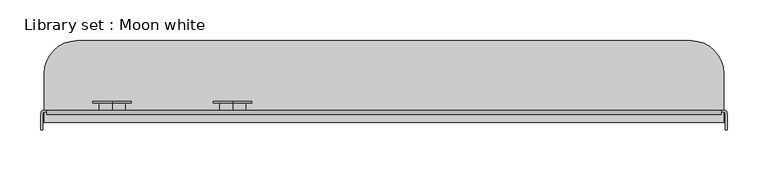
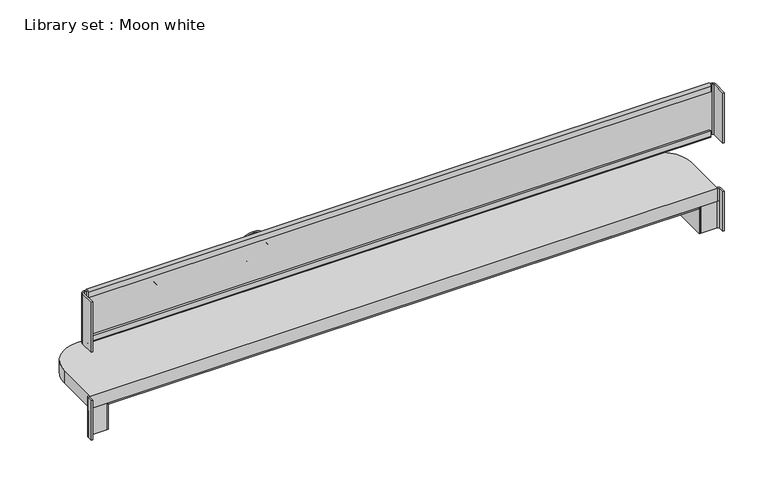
"""IFC4 building model written with IfcOpenShell, lengths in millimetres: proxy geometry, Library set : Moon white."""

from ifc_helpers import new_model, si_unit, point, frame, frame_2d, origin, place, context, project, spatial, polyline, circle_curve, trimmed, segment, composite_curve, outline, extrude, source, transform, mapped, element, save
from ifc_brep_helpers import plane_surface, cylinder_surface, revolved_surface, advanced_brep


def library_set_moon_white_0ce7756b(model_context):
    return source(origin(), model_context, "Body", "SolidModel", [
        extrude(outline(composite_curve([segment(trimmed(circle_curve(frame_2d((-375.0, 65.0000014)), 40.0), [point((-415.0, 65.0000014))], [point((-375.0, 105.0000014))], False, "CARTESIAN"), True, "CONTINUOUS"), segment(polyline([(-375.0, 105.0000014), (375.0, 105.0000014)]), True, "CONTINUOUS"), segment(trimmed(circle_curve(frame_2d((375.0, 65.0000014)), 40.0), [point((375.0, 105.0000014))], [point((415.0, 65.0000014))], False, "CARTESIAN"), True, "CONTINUOUS"), segment(polyline([(415.0, 65.0000014), (415.0, 5.0000014), (-415.0, 5.0000014), (-415.0, 65.0000014)]), True, "CONTINUOUS")], self_intersect=False)), frame((0.0, 0.0, 1440.0), z_axis=(0.0, 0.0, 1.0), x_axis=(1.0, 0.0, 0.0)), (0.0, 0.0, 1.0), 18.0),
        extrude(outline(composite_curve([segment(trimmed(circle_curve(frame_2d((44.0000014, 1408.0)), 5.0), [point((49.0000014, 1408.0))], [point((44.0000014, 1403.0))], False, "CARTESIAN"), True, "CONTINUOUS"), segment(polyline([(44.0000014, 1403.0), (5.0000014, 1403.0), (5.0000014, 1440.0), (49.0000014, 1440.0), (49.0000014, 1408.0)]), True, "CONTINUOUS")], self_intersect=False)), frame((391.0, 0.0, 0.0), z_axis=(1.0, 0.0, 0.0), x_axis=(0.0, 1.0, 0.0)), (0.0, 0.0, 1.0), 2.0),
        advanced_brep(
        [(-415.0, 7.0000014, 1440.0), (-415.0, 5.0000014, 1440.0), (-393.0, 5.0000014, 1440.0), (-393.0, 7.0000014, 1440.0), (-419.0, 3.0000014, 1403.0), (-415.0, 7.0000014, 1403.0), (-393.0, 7.0000014, 1403.0), (-393.0, 5.0000014, 1403.0), (-415.0, 5.0000014, 1403.0), (-417.0, 3.0000014, 1403.0), (-417.0, -4.0, 1403.0), (-419.0, -4.0, 1403.0), (-419.0, 3.0000014, 1440.0), (-417.0, 3.0000014, 1440.0), (-417.0, 3.0000014, 1458.0), (-417.0, -4.0, 1458.0), (-419.0, -4.0, 1458.0), (-419.0, 3.0000014, 1458.0), (-415.0, 5.0000014, 1458.0), (-415.0, 7.0000014, 1458.0)],
        [
            (0, 1),
            (1, 2),
            (2, 3),
            (3, 0),
            (4, 5, circle_curve(frame((-415.0, 3.0000014, 1403.0), z_axis=(0.0, 0.0, -1.0), x_axis=(1.0, 0.0, 0.0)), 4.0)),
            (5, 6),
            (6, 7),
            (7, 8),
            (8, 9, circle_curve(frame((-415.0, 3.0000014, 1403.0), z_axis=(0.0, 0.0, 1.0), x_axis=(1.0, 0.0, 0.0)), 2.0)),
            (9, 10),
            (10, 11),
            (11, 4),
            (4, 12),
            (12, 0, circle_curve(frame((-415.0, 3.0000014, 1440.0), z_axis=(0.0, 0.0, -1.0), x_axis=(1.0, 0.0, 0.0)), 4.0)),
            (0, 5),
            (3, 6),
            (2, 7),
            (1, 8),
            (1, 13, circle_curve(frame((-415.0, 3.0000014, 1440.0), z_axis=(0.0, 0.0, 1.0), x_axis=(1.0, 0.0, 0.0)), 2.0)),
            (13, 9),
            (13, 14),
            (14, 15),
            (15, 10),
            (15, 16),
            (16, 11),
            (16, 17),
            (17, 12),
            (14, 18, circle_curve(frame((-415.0, 3.0000014, 1458.0), z_axis=(0.0, 0.0, -1.0), x_axis=(1.0, 0.0, 0.0)), 2.0)),
            (18, 19),
            (19, 17, circle_curve(frame((-415.0, 3.0000014, 1458.0), z_axis=(0.0, 0.0, 1.0), x_axis=(1.0, 0.0, 0.0)), 4.0)),
            (19, 0),
            (1, 18),
        ],
        [
            plane_surface(frame((-411.0, 3.0000014, 1440.0), z_axis=(0.0, 0.0, 1.0), x_axis=(0.0, -1.0, 0.0))),
            plane_surface(frame((-411.0, 3.0000014, 1403.0), z_axis=(0.0, 0.0, -1.0), x_axis=(0.0, 1.0, 0.0))),
            cylinder_surface(frame((-415.0, 3.0000014, 1403.0), z_axis=(0.0, 0.0, 1.0), x_axis=(1.0, 0.0, 0.0)), 4.0),
            plane_surface(frame((-415.0, 7.0000014, 1440.0), z_axis=(0.0, 1.0, 0.0), x_axis=(0.0, 0.0, -1.0))),
            plane_surface(frame((-393.0, 7.0000014, 1440.0), z_axis=(1.0, 0.0, 0.0), x_axis=(0.0, 0.0, -1.0))),
            plane_surface(frame((-393.0, 5.0000014, 1440.0), z_axis=(0.0, -1.0, 0.0), x_axis=(0.0, 0.0, -1.0))),
            revolved_surface(polyline([(-413.0, 3.0000014, 1403.0), (-413.0, 3.0000014, 1440.0)]), (-415.0, 3.0000014, 1403.0), (0.0, 0.0, -1.0)),
            plane_surface(frame((-417.0, 3.0000014, 1440.0), z_axis=(1.0, 0.0, 0.0), x_axis=(0.0, 0.0, -1.0))),
            plane_surface(frame((-417.0, -4.0, 1440.0), z_axis=(0.0, -1.0, 0.0), x_axis=(0.0, 0.0, -1.0))),
            plane_surface(frame((-419.0, -4.0, 1440.0), z_axis=(-1.0, 0.0, 0.0), x_axis=(0.0, 0.0, -1.0))),
            plane_surface(frame((-411.0, 3.0000014, 1458.0), z_axis=(0.0, 0.0, 1.0), x_axis=(0.0, -1.0, 0.0))),
            cylinder_surface(frame((-415.0, 3.0000014, 1440.0), z_axis=(0.0, 0.0, 1.0), x_axis=(1.0, 0.0, 0.0)), 4.0),
            revolved_surface(polyline([(-413.0, 3.0000014, 1440.0), (-413.0, 3.0000014, 1458.0)]), (-415.0, 3.0000014, 1440.0), (0.0, 0.0, -1.0)),
            plane_surface(frame((-415.0, 7.0000014, 1458.0), z_axis=(1.0, 0.0, 0.0), x_axis=(0.0, 0.0, -1.0))),
        ],
        [
            (0, [[1, 2, 3, 4]]),
            (1, [[5, 6, 7, 8, 9, 10, 11, 12]]),
            (2, [[13, 14, 15, -5]]),
            (3, [[16, -6, -15, -4]]),
            (4, [[17, -7, -16, -3]]),
            (5, [[18, -8, -17, -2]]),
            (6, [[-18, 19, 20, -9]]),
            (7, [[-20, 21, 22, 23, -10]]),
            (8, [[24, 25, -11, -23]]),
            (9, [[26, 27, -13, -12, -25]]),
            (10, [[-26, -24, -22, 28, 29, 30]]),
            (11, [[31, -14, -27, -30]]),
            (12, [[-21, -19, 32, -28]]),
            (13, [[-32, -1, -31, -29]]),
        ],
    ),
        advanced_brep(
        [(415.0, 5.0000014, 1440.0), (415.0, 7.0000014, 1440.0), (392.6469872, 7.0000014, 1440.0), (392.6469872, 5.0000014, 1440.0), (419.0, 3.0000014, 1403.0), (419.0, -4.0, 1403.0), (417.0, -4.0, 1403.0), (417.0, 3.0000014, 1403.0), (415.0, 5.0000014, 1403.0), (392.6469872, 5.0000014, 1403.0), (392.6469872, 7.0000014, 1403.0), (415.0, 7.0000014, 1403.0), (419.0, 3.0000014, 1440.0), (419.0, 3.0000014, 1458.0), (419.0, -4.0, 1458.0), (417.0, -4.0, 1458.0), (417.0, 3.0000014, 1458.0), (417.0, 3.0000014, 1440.0), (415.0, 7.0000014, 1458.0), (415.0, 5.0000014, 1458.0)],
        [
            (0, 1),
            (1, 2),
            (2, 3),
            (3, 0),
            (4, 5),
            (5, 6),
            (6, 7),
            (7, 8, circle_curve(frame((415.0, 3.0000014, 1403.0), z_axis=(0.0, 0.0, 1.0), x_axis=(1.0, 0.0, 0.0)), 2.0)),
            (8, 9),
            (9, 10),
            (10, 11),
            (11, 4, circle_curve(frame((415.0, 3.0000014, 1403.0), z_axis=(0.0, 0.0, -1.0), x_axis=(1.0, 0.0, 0.0)), 4.0)),
            (4, 12),
            (12, 13),
            (13, 14),
            (14, 5),
            (14, 15),
            (15, 6),
            (15, 16),
            (16, 17),
            (17, 7),
            (17, 0, circle_curve(frame((415.0, 3.0000014, 1440.0), z_axis=(0.0, 0.0, 1.0), x_axis=(1.0, 0.0, 0.0)), 2.0)),
            (0, 8),
            (3, 9),
            (2, 10),
            (1, 11),
            (1, 12, circle_curve(frame((415.0, 3.0000014, 1440.0), z_axis=(0.0, 0.0, -1.0), x_axis=(1.0, 0.0, 0.0)), 4.0)),
            (13, 18, circle_curve(frame((415.0, 3.0000014, 1458.0), z_axis=(0.0, 0.0, 1.0), x_axis=(1.0, 0.0, 0.0)), 4.0)),
            (18, 19),
            (19, 16, circle_curve(frame((415.0, 3.0000014, 1458.0), z_axis=(0.0, 0.0, -1.0), x_axis=(1.0, 0.0, 0.0)), 2.0)),
            (19, 0),
            (1, 18),
        ],
        [
            plane_surface(frame((-411.0, 3.0000014, 1440.0), z_axis=(0.0, 0.0, 1.0), x_axis=(0.0, -1.0, 0.0))),
            plane_surface(frame((-411.0, 3.0000014, 1403.0), z_axis=(0.0, 0.0, -1.0), x_axis=(0.0, 1.0, 0.0))),
            plane_surface(frame((419.0, 3.0000014, 1440.0), z_axis=(1.0, 0.0, 0.0), x_axis=(0.0, 0.0, -1.0))),
            plane_surface(frame((419.0, -4.0, 1440.0), z_axis=(0.0, -1.0, 0.0), x_axis=(0.0, 0.0, -1.0))),
            plane_surface(frame((417.0, -4.0, 1440.0), z_axis=(-1.0, 0.0, 0.0), x_axis=(0.0, 0.0, -1.0))),
            revolved_surface(polyline([(417.0, 3.0000014, 1403.0), (417.0, 3.0000014, 1440.0)]), (415.0, 3.0000014, 340.0), (0.0, 0.0, -1.0)),
            plane_surface(frame((415.0, 5.0000014, 1440.0), z_axis=(0.0, -1.0, 0.0), x_axis=(0.0, 0.0, -1.0))),
            plane_surface(frame((392.6469872, 5.0000014, 1440.0), z_axis=(-1.0, 0.0, 0.0), x_axis=(0.0, 0.0, -1.0))),
            plane_surface(frame((392.6469872, 7.0000014, 1440.0), z_axis=(0.0, 1.0, 0.0), x_axis=(0.0, 0.0, -1.0))),
            cylinder_surface(frame((415.0, 3.0000014, 340.0), z_axis=(0.0, 0.0, 1.0), x_axis=(1.0, 0.0, 0.0)), 4.0),
            plane_surface(frame((-411.0, 3.0000014, 1458.0), z_axis=(0.0, 0.0, 1.0), x_axis=(0.0, -1.0, 0.0))),
            revolved_surface(polyline([(417.0, 3.0000014, 1440.0), (417.0, 3.0000014, 1458.0)]), (415.0, 3.0000014, 355.0), (0.0, 0.0, -1.0)),
            cylinder_surface(frame((415.0, 3.0000014, 355.0), z_axis=(0.0, 0.0, 1.0), x_axis=(1.0, 0.0, 0.0)), 4.0),
            plane_surface(frame((415.0, 5.0000014, 1458.0), z_axis=(-1.0, 0.0, 0.0), x_axis=(0.0, 0.0, -1.0))),
        ],
        [
            (0, [[1, 2, 3, 4]]),
            (1, [[5, 6, 7, 8, 9, 10, 11, 12]]),
            (2, [[13, 14, 15, 16, -5]]),
            (3, [[17, 18, -6, -16]]),
            (4, [[19, 20, 21, -7, -18]]),
            (5, [[-21, 22, 23, -8]]),
            (6, [[24, -9, -23, -4]]),
            (7, [[25, -10, -24, -3]]),
            (8, [[26, -11, -25, -2]]),
            (9, [[-26, 27, -13, -12]]),
            (10, [[28, 29, 30, -19, -17, -15]]),
            (11, [[31, -22, -20, -30]]),
            (12, [[-14, -27, 32, -28]]),
            (13, [[-32, -1, -31, -29]]),
        ],
    ),
        advanced_brep(
        [(-185.0, 29.0, 1591.7406009), (-185.0, 31.0, 1591.7406009), (-185.0, 31.0, 1544.7406009), (-185.0, 29.0, 1544.7406009), (-185.0, 29.0, 1584.2406009), (-185.0, 29.0, 1552.2406009), (-185.0, 31.0, 1568.2406009), (-185.0, 19.9994783, 1584.2406009), (-185.0, 19.9994783, 1552.2406009), (-185.0, 19.9994783, 1568.2406009)],
        [
            (0, 1),
            (1, 2, circle_curve(frame((-185.0, 31.0, 1568.2406009), z_axis=(0.0, -1.0, 0.0), x_axis=(0.0, 0.0, -1.0)), 23.5)),
            (2, 3),
            (3, 0, circle_curve(frame((-185.0, 29.0, 1568.2406009), z_axis=(0.0, 1.0, 0.0), x_axis=(0.0, 0.0, -1.0)), 23.5)),
            (2, 1, circle_curve(frame((-185.0, 31.0, 1568.2406009), z_axis=(0.0, -1.0, 0.0), x_axis=(0.0, 0.0, -1.0)), 23.5)),
            (0, 3, circle_curve(frame((-185.0, 29.0, 1568.2406009), z_axis=(0.0, 1.0, 0.0), x_axis=(0.0, 0.0, -1.0)), 23.5)),
            (4, 0),
            (3, 5),
            (5, 4, circle_curve(frame((-185.0, 29.0, 1568.2406009), z_axis=(0.0, 1.0, 0.0), x_axis=(0.0, 0.0, -1.0)), 16.0)),
            (4, 5, circle_curve(frame((-185.0, 29.0, 1568.2406009), z_axis=(0.0, 1.0, 0.0), x_axis=(0.0, 0.0, -1.0)), 16.0)),
            (1, 6),
            (6, 2),
            (7, 4),
            (5, 8),
            (8, 7, circle_curve(frame((-185.0, 19.9994783, 1568.2406009), z_axis=(0.0, 1.0, 0.0), x_axis=(0.0, 0.0, -1.0)), 16.0)),
            (7, 8, circle_curve(frame((-185.0, 19.9994783, 1568.2406009), z_axis=(0.0, 1.0, 0.0), x_axis=(0.0, 0.0, -1.0)), 16.0)),
            (9, 7),
            (8, 9),
        ],
        [
            cylinder_surface(frame((-185.0, 30.9961926, 1568.2406009), z_axis=(0.0, -1.0, 0.0), x_axis=(0.0, 0.0, -1.0)), 23.5),
            plane_surface(frame((-185.0, 29.0, 1568.2406009), z_axis=(0.0, -1.0, 0.0), x_axis=(0.0, 0.0, -1.0))),
            plane_surface(frame((-185.0, 31.0, 1568.2406009), z_axis=(0.0, 1.0, 0.0), x_axis=(0.0, 0.0, -1.0))),
            cylinder_surface(frame((-185.0, 30.9961926, 1568.2406009), z_axis=(0.0, -1.0, 0.0), x_axis=(0.0, 0.0, -1.0)), 16.0),
            plane_surface(frame((-185.0, 19.9994783, 1568.2406009), z_axis=(0.0, -1.0, 0.0), x_axis=(0.0, 0.0, -1.0))),
        ],
        [
            (0, [[1, 2, 3, 4]]),
            (0, [[-3, 5, -1, 6]]),
            (1, [[7, -4, 8, 9]]),
            (1, [[-8, -6, -7, 10]]),
            (2, [[11, 12, -2]]),
            (2, [[-12, -11, -5]]),
            (3, [[13, -9, 14, 15]]),
            (3, [[-14, -10, -13, 16]]),
            (4, [[17, -15, 18]]),
            (4, [[-18, -16, -17]]),
        ],
    ),
        advanced_brep(
        [(-332.0, 29.0, 1586.1710111), (-332.0, 31.0, 1586.1710111), (-332.0, 31.0, 1539.1710111), (-332.0, 29.0, 1539.1710111), (-332.0, 29.0, 1578.6710111), (-332.0, 29.0, 1546.6710111), (-332.0, 31.0, 1562.6710111), (-332.0, 19.9994783, 1578.6710111), (-332.0, 19.9994783, 1546.6710111), (-332.0, 19.9994783, 1562.6710111)],
        [
            (0, 1),
            (1, 2, circle_curve(frame((-332.0, 31.0, 1562.6710111), z_axis=(0.0, -1.0, 0.0), x_axis=(0.0, 0.0, -1.0)), 23.5)),
            (2, 3),
            (3, 0, circle_curve(frame((-332.0, 29.0, 1562.6710111), z_axis=(0.0, 1.0, 0.0), x_axis=(0.0, 0.0, -1.0)), 23.5)),
            (2, 1, circle_curve(frame((-332.0, 31.0, 1562.6710111), z_axis=(0.0, -1.0, 0.0), x_axis=(0.0, 0.0, -1.0)), 23.5)),
            (0, 3, circle_curve(frame((-332.0, 29.0, 1562.6710111), z_axis=(0.0, 1.0, 0.0), x_axis=(0.0, 0.0, -1.0)), 23.5)),
            (4, 0),
            (3, 5),
            (5, 4, circle_curve(frame((-332.0, 29.0, 1562.6710111), z_axis=(0.0, 1.0, 0.0), x_axis=(0.0, 0.0, -1.0)), 16.0)),
            (4, 5, circle_curve(frame((-332.0, 29.0, 1562.6710111), z_axis=(0.0, 1.0, 0.0), x_axis=(0.0, 0.0, -1.0)), 16.0)),
            (1, 6),
            (6, 2),
            (7, 4),
            (5, 8),
            (8, 7, circle_curve(frame((-332.0, 19.9994783, 1562.6710111), z_axis=(0.0, 1.0, 0.0), x_axis=(0.0, 0.0, -1.0)), 16.0)),
            (7, 8, circle_curve(frame((-332.0, 19.9994783, 1562.6710111), z_axis=(0.0, 1.0, 0.0), x_axis=(0.0, 0.0, -1.0)), 16.0)),
            (9, 7),
            (8, 9),
        ],
        [
            cylinder_surface(frame((-332.0, 30.9961926, 1562.6710111), z_axis=(0.0, -1.0, 0.0), x_axis=(0.0, 0.0, -1.0)), 23.5),
            plane_surface(frame((-332.0, 29.0, 1562.6710111), z_axis=(0.0, -1.0, 0.0), x_axis=(0.0, 0.0, -1.0))),
            plane_surface(frame((-332.0, 31.0, 1562.6710111), z_axis=(0.0, 1.0, 0.0), x_axis=(0.0, 0.0, -1.0))),
            cylinder_surface(frame((-332.0, 30.9961926, 1562.6710111), z_axis=(0.0, -1.0, 0.0), x_axis=(0.0, 0.0, -1.0)), 16.0),
            plane_surface(frame((-332.0, 19.9994783, 1562.6710111), z_axis=(0.0, -1.0, 0.0), x_axis=(0.0, 0.0, -1.0))),
        ],
        [
            (0, [[1, 2, 3, 4]]),
            (0, [[-3, 5, -1, 6]]),
            (1, [[7, -4, 8, 9]]),
            (1, [[-8, -6, -7, 10]]),
            (2, [[11, 12, -2]]),
            (2, [[-12, -11, -5]]),
            (3, [[13, -9, 14, 15]]),
            (3, [[-14, -10, -13, 16]]),
            (4, [[17, -15, 18]]),
            (4, [[-18, -16, -17]]),
        ],
    ),
        advanced_brep(
        [(-412.0, 17.9891282, 1533.5), (-412.0, 17.9891282, 1526.0), (-412.0, 20.0, 1526.0), (-412.0, 15.0, 1526.0), (-412.0, 15.0, 1533.5), (-412.0, 20.0, 1596.0), (-412.0, 17.9891282, 1596.0), (-412.0, 17.9891282, 1588.5), (-412.0, 15.0, 1588.5), (-412.0, 15.0, 1596.0), (412.0, 17.9891282, 1588.5), (412.0, 17.9891282, 1596.0), (412.0, 20.0, 1596.0), (412.0, 15.0, 1596.0), (412.0, 15.0, 1588.5), (412.0, 20.0, 1526.0), (412.0, 17.9891282, 1526.0), (412.0, 17.9891282, 1533.5), (412.0, 15.0, 1533.5), (412.0, 15.0, 1526.0), (-415.0, 18.0, 1596.0), (-415.0, 18.0, 1526.0), (415.0, 18.0, 1526.0), (415.0, 18.0, 1596.0), (-415.0, 20.0, 1526.0), (-415.0, 20.0, 1596.0), (415.0, 20.0, 1596.0), (415.0, 20.0, 1526.0), (-419.0, 15.9891282, 1596.0), (-419.0, -4.0, 1596.0), (-417.0, -4.0, 1596.0), (-417.0, 15.9891282, 1596.0), (419.0, 15.9891282, 1596.0), (417.0, 15.9891282, 1596.0), (417.0, -4.0, 1596.0), (419.0, -4.0, 1596.0), (-419.0, 15.9891282, 1526.0), (-417.0, 15.9891282, 1526.0), (-417.0, -4.0, 1526.0), (-419.0, -4.0, 1526.0), (419.0, 15.9891282, 1526.0), (419.0, -4.0, 1526.0), (417.0, -4.0, 1526.0), (417.0, 15.9891282, 1526.0)],
        [
            (0, 1),
            (1, 2),
            (2, 3, circle_curve(frame((-412.0, 17.5, 1526.0), z_axis=(-1.0, 0.0, 0.0), x_axis=(0.0, 0.0, 1.0)), 2.5)),
            (3, 4),
            (4, 0),
            (5, 6),
            (6, 7),
            (7, 8),
            (8, 9),
            (9, 5, circle_curve(frame((-412.0, 17.5, 1596.0), z_axis=(-1.0, 0.0, 0.0), x_axis=(0.0, 0.0, 1.0)), 2.5)),
            (10, 11),
            (11, 12),
            (12, 13, circle_curve(frame((412.0, 17.5, 1596.0), z_axis=(1.0, 0.0, 0.0), x_axis=(0.0, 0.0, 1.0)), 2.5)),
            (13, 14),
            (14, 10),
            (15, 16),
            (16, 17),
            (17, 18),
            (18, 19),
            (19, 15, circle_curve(frame((412.0, 17.5, 1526.0), z_axis=(1.0, 0.0, 0.0), x_axis=(0.0, 0.0, 1.0)), 2.5)),
            (6, 20),
            (20, 21),
            (21, 1),
            (0, 17),
            (16, 22),
            (22, 23),
            (23, 11),
            (10, 7),
            (4, 18),
            (3, 19),
            (2, 15),
            (2, 24),
            (24, 25),
            (25, 5),
            (5, 12),
            (12, 26),
            (26, 27),
            (27, 15),
            (9, 13),
            (8, 14),
            (28, 29),
            (29, 30),
            (30, 31),
            (31, 20, circle_curve(frame((-415.0, 15.9891282, 1596.0), z_axis=(0.0, 0.0, -1.0), x_axis=(1.0, 0.0, 0.0)), 2.0)),
            (25, 28, circle_curve(frame((-415.0, 15.9891282, 1596.0), z_axis=(0.0, 0.0, 1.0), x_axis=(1.0, 0.0, 0.0)), 4.0)),
            (32, 26, circle_curve(frame((415.0, 15.9891282, 1596.0), z_axis=(0.0, 0.0, 1.0), x_axis=(1.0, 0.0, 0.0)), 4.0)),
            (23, 33, circle_curve(frame((415.0, 15.9891282, 1596.0), z_axis=(0.0, 0.0, -1.0), x_axis=(1.0, 0.0, 0.0)), 2.0)),
            (33, 34),
            (34, 35),
            (35, 32),
            (36, 24, circle_curve(frame((-415.0, 15.9891282, 1526.0), z_axis=(0.0, 0.0, -1.0), x_axis=(1.0, 0.0, 0.0)), 4.0)),
            (21, 37, circle_curve(frame((-415.0, 15.9891282, 1526.0), z_axis=(0.0, 0.0, 1.0), x_axis=(1.0, 0.0, 0.0)), 2.0)),
            (37, 38),
            (38, 39),
            (39, 36),
            (40, 41),
            (41, 42),
            (42, 43),
            (43, 22, circle_curve(frame((415.0, 15.9891282, 1526.0), z_axis=(0.0, 0.0, 1.0), x_axis=(1.0, 0.0, 0.0)), 2.0)),
            (27, 40, circle_curve(frame((415.0, 15.9891282, 1526.0), z_axis=(0.0, 0.0, -1.0), x_axis=(1.0, 0.0, 0.0)), 4.0)),
            (36, 28),
            (31, 37),
            (30, 38),
            (29, 39),
            (35, 41),
            (40, 32),
            (34, 42),
            (33, 43),
        ],
        [
            plane_surface(frame((-412.0, 0.0, 1561.0), z_axis=(-1.0, 0.0, 0.0), x_axis=(0.0, 1.0, 0.0))),
            plane_surface(frame((412.0, 0.0, 1561.0), z_axis=(1.0, 0.0, 0.0), x_axis=(0.0, 1.0, 0.0))),
            plane_surface(frame((-412.0, 18.0, 1588.5), z_axis=(0.0, -1.0, 0.0), x_axis=(1.0, 0.0, 0.0))),
            plane_surface(frame((-412.0, 18.0, 1533.5), z_axis=(0.0, 0.0, 1.0), x_axis=(1.0, 0.0, 0.0))),
            plane_surface(frame((-412.0, 15.0, 1533.5), z_axis=(0.0, -1.0, 0.0), x_axis=(1.0, 0.0, 0.0))),
            cylinder_surface(frame((-412.0, 17.5, 1526.0), z_axis=(-1.0, 0.0, 0.0), x_axis=(0.0, 0.0, 1.0)), 2.5),
            plane_surface(frame((-412.0, 20.0, 1526.0), z_axis=(0.0, 1.0, 0.0), x_axis=(1.0, 0.0, 0.0))),
            cylinder_surface(frame((-412.0, 17.5, 1596.0), z_axis=(-1.0, 0.0, 0.0), x_axis=(0.0, 0.0, 1.0)), 2.5),
            plane_surface(frame((-412.0, 15.0, 1596.0), z_axis=(0.0, -1.0, 0.0), x_axis=(1.0, 0.0, 0.0))),
            plane_surface(frame((-412.0, 15.0, 1588.5), z_axis=(0.0, 0.0, -1.0), x_axis=(1.0, 0.0, 0.0))),
            plane_surface(frame((-411.0, 15.9891282, 1596.0), z_axis=(0.0, 0.0, 1.0), x_axis=(0.0, -1.0, 0.0))),
            plane_surface(frame((-411.0, 15.9891282, 1526.0), z_axis=(0.0, 0.0, -1.0), x_axis=(0.0, 1.0, 0.0))),
            cylinder_surface(frame((-415.0, 15.9891282, 1526.0), z_axis=(0.0, 0.0, 1.0), x_axis=(1.0, 0.0, 0.0)), 4.0),
            revolved_surface(polyline([(-413.0, 15.9891282, 1526.0), (-413.0, 15.9891282, 1596.0)]), (-415.0, 15.9891282, 1526.0), (0.0, 0.0, -1.0)),
            plane_surface(frame((-417.0, 15.9891282, 1596.0), z_axis=(1.0, 0.0, 0.0), x_axis=(0.0, 0.0, -1.0))),
            plane_surface(frame((-417.0, -4.0, 1596.0), z_axis=(0.0, -1.0, 0.0), x_axis=(0.0, 0.0, -1.0))),
            plane_surface(frame((-419.0, -4.0, 1596.0), z_axis=(-1.0, 0.0, 0.0), x_axis=(0.0, 0.0, -1.0))),
            plane_surface(frame((419.0, 15.9891282, 1596.0), z_axis=(1.0, 0.0, 0.0), x_axis=(0.0, 0.0, -1.0))),
            plane_surface(frame((419.0, -4.0, 1596.0), z_axis=(0.0, -1.0, 0.0), x_axis=(0.0, 0.0, -1.0))),
            plane_surface(frame((417.0, -4.0, 1596.0), z_axis=(-1.0, 0.0, 0.0), x_axis=(0.0, 0.0, -1.0))),
            revolved_surface(polyline([(417.0, 15.9891282, 1526.0), (417.0, 15.9891282, 1596.0)]), (415.0, 15.9891282, 0.0), (0.0, 0.0, -1.0)),
            cylinder_surface(frame((415.0, 15.9891282, 0.0), z_axis=(0.0, 0.0, 1.0), x_axis=(1.0, 0.0, 0.0)), 4.0),
        ],
        [
            (0, [[1, 2, 3, 4, 5]]),
            (0, [[6, 7, 8, 9, 10]]),
            (1, [[11, 12, 13, 14, 15]]),
            (1, [[16, 17, 18, 19, 20]]),
            (2, [[-7, 21, 22, 23, -1, 24, -17, 25, 26, 27, -11, 28]]),
            (3, [[29, -18, -24, -5]]),
            (4, [[30, -19, -29, -4]]),
            (5, [[31, -20, -30, -3]]),
            (6, [[32, 33, 34, 35, 36, 37, 38, -31]]),
            (7, [[39, -13, -35, -10]]),
            (8, [[40, -14, -39, -9]]),
            (9, [[-28, -15, -40, -8]]),
            (10, [[41, 42, 43, 44, -21, -6, -34, 45]]),
            (10, [[46, -36, -12, -27, 47, 48, 49, 50]]),
            (11, [[51, -32, -2, -23, 52, 53, 54, 55]]),
            (11, [[56, 57, 58, 59, -25, -16, -38, 60]]),
            (12, [[-33, -51, 61, -45]]),
            (13, [[62, -52, -22, -44]]),
            (14, [[63, -53, -62, -43]]),
            (15, [[64, -54, -63, -42]]),
            (16, [[-61, -55, -64, -41]]),
            (17, [[65, -56, 66, -50]]),
            (18, [[67, -57, -65, -49]]),
            (19, [[68, -58, -67, -48]]),
            (20, [[-26, -59, -68, -47]]),
            (21, [[-66, -60, -37, -46]]),
        ],
    ),
        extrude(outline(composite_curve([segment(trimmed(circle_curve(frame_2d((-386.0, 51.9994783)), 5.0), [point((-391.0, 51.9994783))], [point((-386.0, 56.9994783))], False, "CARTESIAN"), True, "CONTINUOUS"), segment(polyline([(-386.0, 56.9994783), (386.0, 56.9994783)]), True, "CONTINUOUS"), segment(trimmed(circle_curve(frame_2d((386.0, 51.9994783)), 5.0), [point((386.0, 56.9994783))], [point((391.0, 51.9994783))], False, "CARTESIAN"), True, "CONTINUOUS"), segment(polyline([(391.0, 51.9994783), (391.0, 5.0000014), (-391.0, 5.0000014), (-391.0, 51.9994783)]), True, "CONTINUOUS")], self_intersect=False)), frame((0.0, 0.0, 1438.0), z_axis=(0.0, 0.0, 1.0), x_axis=(1.0, 0.0, 0.0)), (0.0, 0.0, 1.0), 2.0),
        extrude(outline(composite_curve([segment(trimmed(circle_curve(frame_2d((44.0000014, 1408.0)), 5.0), [point((49.0000014, 1408.0))], [point((44.0000014, 1403.0))], False, "CARTESIAN"), True, "CONTINUOUS"), segment(polyline([(44.0000014, 1403.0), (5.0000014, 1403.0), (5.0000014, 1440.0), (49.0000014, 1440.0), (49.0000014, 1408.0)]), True, "CONTINUOUS")], self_intersect=False)), frame((-393.0, 0.0, 0.0), z_axis=(1.0, 0.0, 0.0), x_axis=(0.0, 1.0, 0.0)), (0.0, 0.0, 1.0), 2.0),
    ])


if __name__ == "__main__":
    model = new_model("IFC4")
    model_context = context("Model", 3, world=origin())
    ifc_project = project(units=[si_unit("LENGTHUNIT", "METRE", prefix="MILLI")], contexts=[model_context])
    site = spatial("IfcSite", under=ifc_project)
    building = spatial("IfcBuilding", under=site)
    placement = place(None, origin())
    library_set_moon_white_shape = library_set_moon_white_0ce7756b(model_context)
    element("IfcBuildingElementProxy", 1, Name="Library set : Moon white", ObjectType="Library set : Moon white", at=placement, inside=building, context=model_context, shape_type="MappedRepresentation", body=[
        mapped(library_set_moon_white_shape, transform((0.0, 0.0, 0.0), x_axis=(1.0, 0.0, 0.0), y_axis=(0.0, 1.0, 0.0), z_axis=(0.0, 0.0, 1.0))),
    ])
    save(model, "model.ifc")
